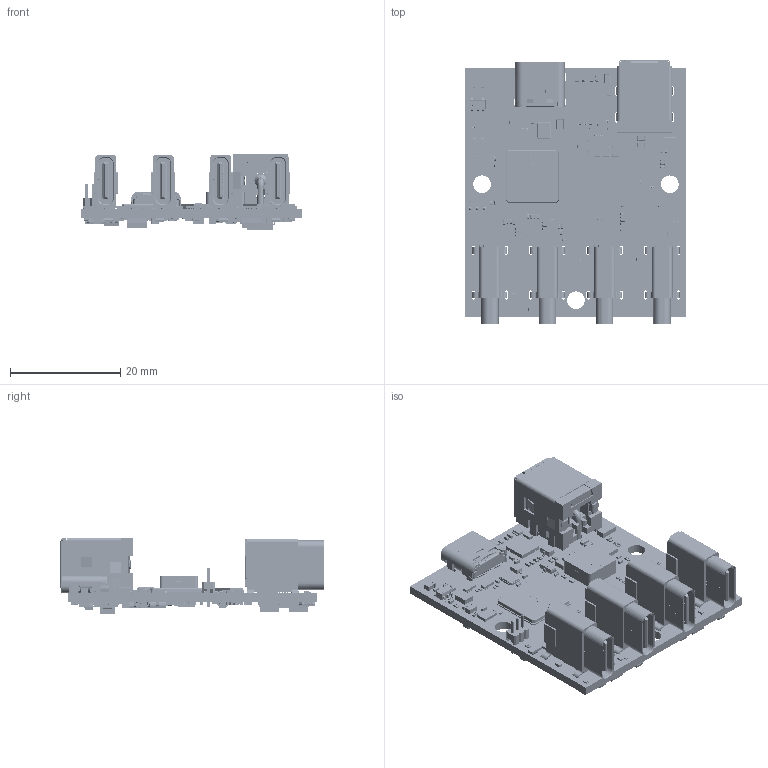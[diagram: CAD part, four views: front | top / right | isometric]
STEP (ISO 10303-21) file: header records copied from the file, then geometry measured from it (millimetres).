
FILE_DESCRIPTION(('Open CASCADE Model'),'2;1');
FILE_NAME('Open CASCADE Shape Model','2025-02-13T17:18:36',('Author'),( 'Open CASCADE'),'Open CASCADE STEP processor 7.6','Open CASCADE 7.5' ,'Unknown');
FILE_SCHEMA(('AUTOMOTIVE_DESIGN_CC2 { 1 2 10303 214 -1 1 5 4 }'));
Length unit declared in the file: millimetre
Products named in the file (442): PCB; BoardCG-822Q8X4CX1C_PD; Open CASCADE STEP translator 7.5 2.1.1; C78BCG-822Q8X4CX1C_PD; CAP 0201; R64BCG-822Q8X4CX1C_PD; User Library-User Library-0201_Res; R64ACG-822Q8X4CX1C_PD; R69BCG-822Q8X4CX1C_PD; R70BCG-822Q8X4CX1C_PD; R69ACG-822Q8X4CX1C_PD; R14CG-822Q8X4CX1C_PD; R70ACG-822Q8X4CX1C_PD; R62BCG-822Q8X4CX1C_PD; R62ACG-822Q8X4CX1C_PD; Q8BCG-822Q8X4CX1C_PD; User Library-SOT323 (SC70-3)-1; K_X_F6rper_1; Beschriftung_1; Pins_1; Q8ACG-822Q8X4CX1C_PD; C77BCG-822Q8X4CX1C_PD; C77ACG-822Q8X4CX1C_PD; R67BCG-822Q8X4CX1C_PD; R67ACG-822Q8X4CX1C_PD; R68ACG-822Q8X4CX1C_PD; R68BCG-822Q8X4CX1C_PD; C43CG-822Q8X4CX1C_PD; User Library-CAPC3216X10; U6CG-822Q8X4CX1C_PD; 6893667664; Extruded; 6894019200; Cylinder; R47CG-822Q8X4CX1C_PD; R46CG-822Q8X4CX1C_PD; RES0402-2; R45CG-822Q8X4CX1C_PD; R44CG-822Q8X4CX1C_PD; R43CG-822Q8X4CX1C_PD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
Assembly tree (794 placements, depth 6):
  PCB
    BoardCG-822Q8X4CX1C_PD
      Open CASCADE STEP translator 7.5 2.1.1
    C78BCG-822Q8X4CX1C_PD
      CAP 0201
    R64BCG-822Q8X4CX1C_PD
      User Library-User Library-0201_Res
    R64ACG-822Q8X4CX1C_PD
      User Library-User Library-0201_Res
    R69BCG-822Q8X4CX1C_PD
      User Library-User Library-0201_Res
    R70BCG-822Q8X4CX1C_PD
      User Library-User Library-0201_Res
    R69ACG-822Q8X4CX1C_PD
      User Library-User Library-0201_Res
    R14CG-822Q8X4CX1C_PD
      User Library-User Library-0201_Res
    R70ACG-822Q8X4CX1C_PD
      User Library-User Library-0201_Res
    R62BCG-822Q8X4CX1C_PD
      User Library-User Library-0201_Res
    R62ACG-822Q8X4CX1C_PD
      User Library-User Library-0201_Res
    Q8BCG-822Q8X4CX1C_PD
      User Library-SOT323 (SC70-3)-1
        K_X_F6rper_1
        Beschriftung_1
        Pins_1  x3
    Q8ACG-822Q8X4CX1C_PD
      User Library-SOT323 (SC70-3)-1
        K_X_F6rper_1
        Beschriftung_1
        Pins_1  x3
    C77BCG-822Q8X4CX1C_PD
      CAP 0201
    C77ACG-822Q8X4CX1C_PD
      CAP 0201
    R67BCG-822Q8X4CX1C_PD
      User Library-User Library-0201_Res
    R67ACG-822Q8X4CX1C_PD
      User Library-User Library-0201_Res
    R68ACG-822Q8X4CX1C_PD
      User Library-User Library-0201_Res
    R68BCG-822Q8X4CX1C_PD
      User Library-User Library-0201_Res
    C43CG-822Q8X4CX1C_PD
      User Library-CAPC3216X10
    U6CG-822Q8X4CX1C_PD
      6893667664
        Extruded
      6894019200
        Cylinder
    R47CG-822Q8X4CX1C_PD
      User Library-User Library-0201_Res
    R46CG-822Q8X4CX1C_PD
      RES0402-2
    R45CG-822Q8X4CX1C_PD
      RES0402-2
    R44CG-822Q8X4CX1C_PD
      RES0402-2
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Bounding box: 40.02 x 47.79 x 13.89 mm (x, y, z)
Volume: 5694.1 mm3; surface area: 12708.2 mm2
Topology: 1148 solids, 1153 shells, 51811 faces, 129688 edges, 80680 vertices
Faces by surface type: plane 23287, bspline 15389, cylinder 9814, sphere 2864, torus 350, cone 91, extrusion 16
Full cylindrical faces by diameter (mm): 0.3 x1, 0.55 x2, 0.65 x8, 0.8 x4, 1 x8, 1.2 x4, 1.7 x1, 1.9 x1, 2.032 x6, 2.5 x1, 3.2 x3
Entity records: 281723 total; most frequent: CARTESIAN_POINT 75836, ORIENTED_EDGE 36992, DIRECTION 30990, EDGE_CURVE 18502, VECTOR 12770, LINE 12754, VERTEX_POINT 11969, AXIS2_PLACEMENT_3D 9110
